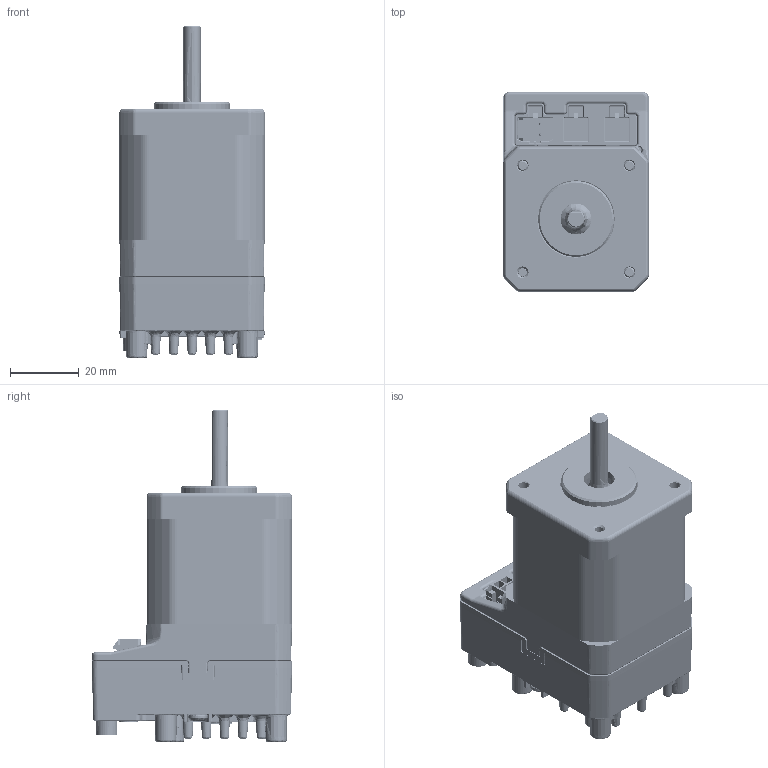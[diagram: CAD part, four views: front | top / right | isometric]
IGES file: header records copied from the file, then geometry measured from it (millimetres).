
Start section: SolidWorks IGES file using analytic representation for surfaces
Global section: file name: C:\TeknicPDM\NEMA 17 CPM\NEMA 17 Customer Facing Files\NEMA 17 CPM-EC 5mm.igs; native system: SolidWorks 2020; preprocessor: SolidWorks 2020; author: mike_berezny; date: 260811.133149; units: inch
Bounding box: 42.21 x 58.06 x 96.38 mm (x, y, z)
Surface area: 67303.5 mm2 (no closed solid volume)
Topology: 0 solids, 0 shells, 5178 faces, 47992 edges, 47834 vertices
Faces by surface type: bspline 3021, revolution 2157
